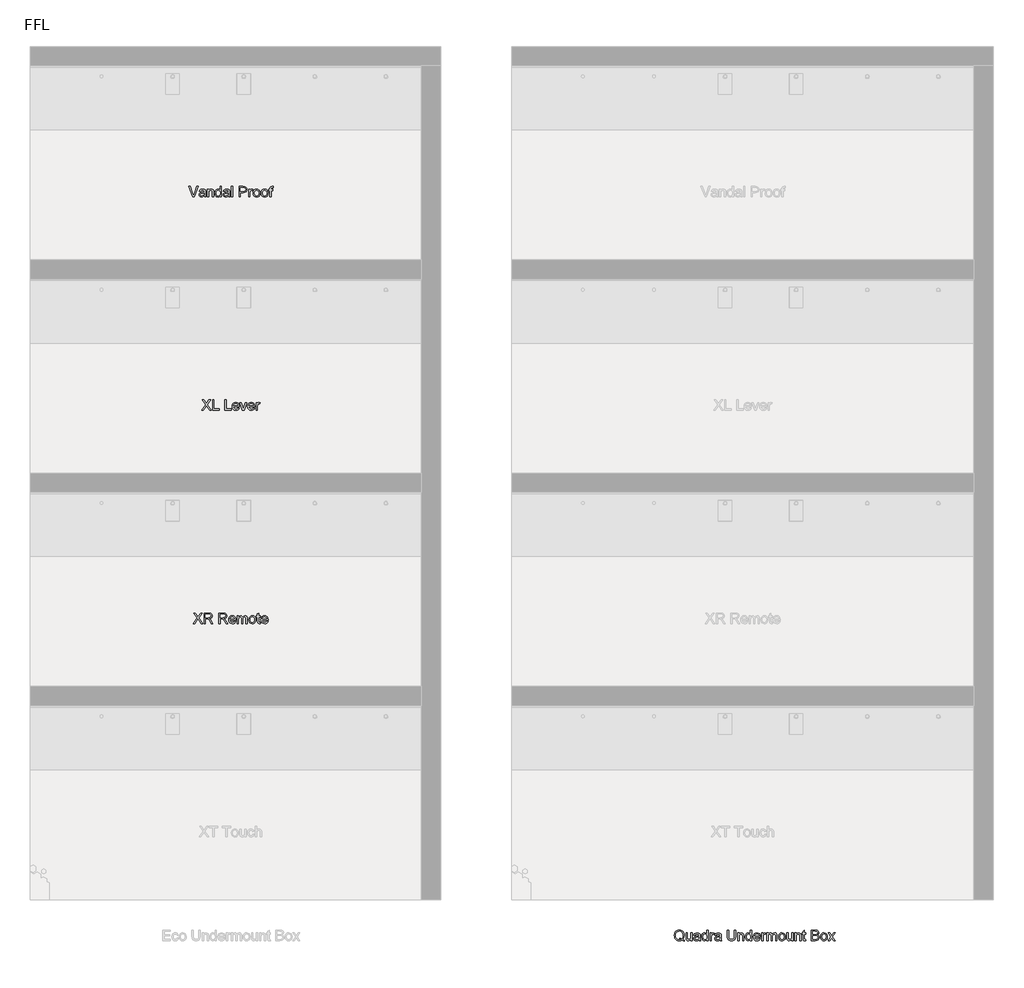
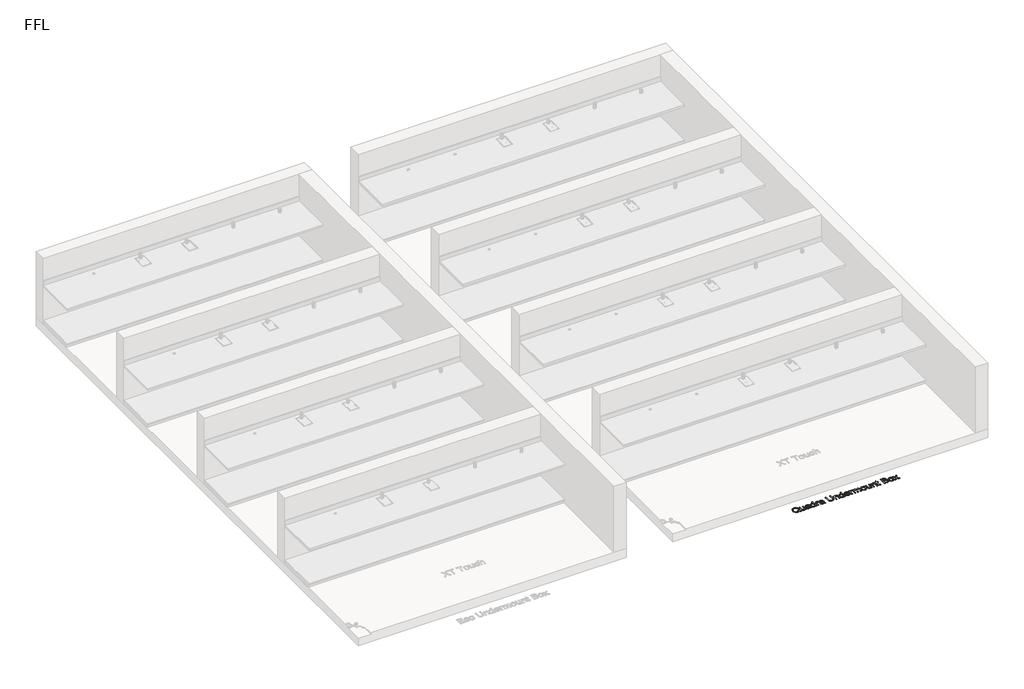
# One storey, part 4 of 5: 4 proxies.
"""IFC4 building model written with IfcOpenShell, lengths in millimetres."""

import ifcopenshell
import ifcopenshell.guid

model = None  # the IFC model being written
_history = None  # IfcOwnerHistory: only IFC2X3 demands one
_inside = {}  # id of a spatial element -> (the spatial element, [elements in it])
_under = {}  # id of a project, library or spatial element -> (it, [spatial elements below it])
_declared = {}  # id of a project -> (the project, [libraries it declares])
_typed = {}  # id of a type object -> (the type object, [elements of that type])
_made_of = {}  # id of a material, layer set ... -> (it, [elements and type objects made of it])


def new_model(schema):
    """Start an empty IFC model of exactly this schema.

    Asked for "IFC4X3", IfcOpenShell would pick the latest addendum, in which some entities
    have other attributes; the version numbers below select the first issue.
    IFC2X3 requires an IfcOwnerHistory on every rooted entity: one is made here for all.
    """
    global model, _history
    if schema == "IFC4X3":
        model = ifcopenshell.file(schema_version=(4, 3, 0, 0))
    else:
        model = ifcopenshell.file(schema=schema)
    _inside.clear()
    _under.clear()
    _declared.clear()
    _typed.clear()
    _made_of.clear()
    _history = None
    if model.schema == "IFC2X3":
        org = make("IfcOrganization", Name="unknown")
        user = make(
            "IfcPersonAndOrganization",
            ThePerson=make("IfcPerson", FamilyName="unknown"),
            TheOrganization=org,
        )
        app = make(
            "IfcApplication",
            ApplicationDeveloper=org,
            Version="unknown",
            ApplicationFullName="unknown",
            ApplicationIdentifier="unknown",
        )
        _history = make(
            "IfcOwnerHistory",
            OwningUser=user,
            OwningApplication=app,
            ChangeAction="ADDED",
            CreationDate=0,
        )
    return model


def make(cls, **values):
    """One entity of the class cls with the attributes given. An attribute that is None is left unset."""
    return model.create_entity(
        cls, **{name: value for name, value in values.items() if value is not None}
    )


def rooted(cls, **values):
    """An entity with a GlobalId (a new one), such as an element, a storey or a relation."""
    return make(cls, GlobalId=ifcopenshell.guid.new(), OwnerHistory=_history, **values)


def si_unit(unit_type, name, prefix=None):
    """IfcSIUnit, for example si_unit("LENGTHUNIT", "METRE", prefix="MILLI")."""
    return make("IfcSIUnit", UnitType=unit_type, Prefix=prefix, Name=name)


def assignment(units):
    """IfcUnitAssignment: the units of a project."""
    return None if units is None else make("IfcUnitAssignment", Units=units)


def point(xyz):
    """IfcCartesianPoint."""
    return None if xyz is None else make("IfcCartesianPoint", Coordinates=xyz)


def direction(xyz):
    """IfcDirection."""
    return None if xyz is None else make("IfcDirection", DirectionRatios=xyz)


def frame(location, z_axis=None, x_axis=None):
    """IfcAxis2Placement3D, a coordinate frame: its origin and axes. An axis left out is left unset."""
    return make(
        "IfcAxis2Placement3D",
        Location=point(location),
        Axis=direction(z_axis),
        RefDirection=direction(x_axis),
    )


def origin():
    """The frame at (0, 0, 0) with its axes left unset."""
    return frame((0.0, 0.0, 0.0))


def origin_with_axes():
    """The frame at (0, 0, 0) with the z axis (0, 0, 1) and the x axis (1, 0, 0) written out."""
    return frame((0.0, 0.0, 0.0), z_axis=(0.0, 0.0, 1.0), x_axis=(1.0, 0.0, 0.0))


def place(relative_to, where):
    """IfcLocalPlacement: puts the frame where relative to a parent placement (None: the world)."""
    return make(
        "IfcLocalPlacement", PlacementRelTo=relative_to, RelativePlacement=where
    )


def context(
    kind, dimensions, precision=None, world=None, true_north=None, identifier=None
):
    """IfcGeometricRepresentationContext, for example the 3D "Model" context."""
    return make(
        "IfcGeometricRepresentationContext",
        ContextIdentifier=identifier,
        ContextType=kind,
        CoordinateSpaceDimension=dimensions,
        Precision=precision,
        WorldCoordinateSystem=world,
        TrueNorth=true_north,
    )


def project(units=None, contexts=None):
    """IfcProject with its units and contexts."""
    return rooted(
        "IfcProject",
        Name="project",
        RepresentationContexts=contexts,
        UnitsInContext=assignment(units),
    )


def spatial(cls, under=None, at=None, **own):
    """A site, building, storey or space (cls), placed at a placement, below another one or the project."""
    s = rooted(cls, ObjectPlacement=at, **own)
    if under is not None:
        _under.setdefault(under.id(), (under, []))[1].append(s)
    return s


def polyline(points):
    """IfcPolyline through the points."""
    return make("IfcPolyline", Points=[point(p) for p in points])


def outline(outer, holes=None, kind="AREA"):
    """IfcArbitraryClosedProfileDef: a profile drawn as a closed curve; with holes, ...WithVoids."""
    if holes is None:
        return make("IfcArbitraryClosedProfileDef", ProfileType=kind, OuterCurve=outer)
    return make(
        "IfcArbitraryProfileDefWithVoids",
        ProfileType=kind,
        OuterCurve=outer,
        InnerCurves=holes,
    )


def extrude(swept, where, along, depth):
    """IfcExtrudedAreaSolid: the profile swept, set in the frame where, extruded along a direction by depth."""
    return make(
        "IfcExtrudedAreaSolid",
        SweptArea=swept,
        Position=where,
        ExtrudedDirection=direction(along),
        Depth=depth,
    )


def shape(context_of_items, identifier, shape_type, items):
    """IfcShapeRepresentation: the items that make up one representation, for example the "Body"."""
    return make(
        "IfcShapeRepresentation",
        ContextOfItems=context_of_items,
        RepresentationIdentifier=identifier,
        RepresentationType=shape_type,
        Items=items,
    )


def made_of(thing, what):
    """Note that an element or type object is made of a material, layer set ...; save() writes the relation."""
    if what is not None:
        _made_of.setdefault(what.id(), (what, []))[1].append(thing)
    return thing


def element(
    cls,
    number,
    at=None,
    inside=None,
    cuts=None,
    type_object=None,
    material=None,
    context=None,
    identifier="Body",
    shape_type=None,
    held_by="IfcProductDefinitionShape",
    body=None,
    shapes=None,
    **own,
):
    """One element of the class cls, such as IfcWall. Its Tag is "e" and its number.

    at: its placement. inside: the storey or other place that contains it. cuts: it is an
    opening in that element (IfcRelVoidsElement). A single representation is given by context,
    identifier, shape_type and body (its items); several are given by shapes. held_by: the class
    of the entity that holds the representations. save() writes the other relations.
    """
    e = rooted(cls, Tag="e%d" % number, ObjectPlacement=at, **own)
    if body is not None:
        shapes = [shape(context, identifier, shape_type, body)]
    if shapes is not None:
        e.Representation = make(held_by, Representations=shapes)
    if inside is not None:
        _inside.setdefault(inside.id(), (inside, []))[1].append(e)
    if cuts is not None:
        rooted(
            "IfcRelVoidsElement", RelatingBuildingElement=cuts, RelatedOpeningElement=e
        )
    if type_object is not None:
        _typed.setdefault(type_object.id(), (type_object, []))[1].append(e)
    return made_of(e, material)


def aggregate(whole, parts):
    """IfcRelAggregates: a whole, such as a stair, and the parts it consists of."""
    return rooted("IfcRelAggregates", RelatingObject=whole, RelatedObjects=parts)


def save(model, path):
    """Write the relations noted so far, then the file.

    IfcRelAggregates (storeys below a building ...), IfcRelContainedInSpatialStructure (elements
    in a storey), IfcRelDefinesByType, IfcRelAssociatesMaterial and IfcRelDeclares: one each for
    every whole, place, type object, material and project.
    """
    for whole, parts in _under.values():
        aggregate(whole, parts)
    for where, things in _inside.values():
        rooted(
            "IfcRelContainedInSpatialStructure",
            RelatedElements=things,
            RelatingStructure=where,
        )
    for kind, things in _typed.values():
        rooted("IfcRelDefinesByType", RelatedObjects=things, RelatingType=kind)
    for what, things in _made_of.values():
        rooted("IfcRelAssociatesMaterial", RelatedObjects=things, RelatingMaterial=what)
    for by, libraries in _declared.values():
        rooted("IfcRelDeclares", RelatingContext=by, RelatedDefinitions=libraries)
    model.write(path)


model = new_model("IFC4")

# Units and contexts
model_context = context("Model", 3, world=origin())
ifc_project = project(units=[si_unit("LENGTHUNIT", "METRE", prefix="MILLI")], contexts=[model_context])

# Site, building, storey
site = spatial("IfcSite", under=ifc_project)
building = spatial("IfcBuilding", under=site)
storey = spatial("IfcBuildingStorey", under=building, Name="FFL", Elevation=0.0)

# Proxies
placement = place(None, origin())
element("IfcBuildingElementProxy", 1, Name="150mm Arial", ObjectType="150mm Arial", at=placement, inside=storey, context=model_context, shape_type="SweptSolid", body=[
    extrude(outline(polyline([(9818.1493225, 6003.2393304), (9875.0844187, 6083.7200996), (9827.3800917, 6150.9316381), (9849.5195148, 6150.9316381), (9876.3824956, 6113.1071188), (9885.4329764, 6098.3595227), (9896.0339379, 6113.3595227), (9922.6084571, 6150.9316381), (9945.0723994, 6150.9316381), (9897.3680725, 6083.5037534), (9954.3031687, 6003.2393304), (9932.1637456, 6003.2393304), (9894.2310533, 6056.7489458), (9886.3344187, 6067.854715), (9877.6445148, 6055.667215), (9840.6132648, 6003.2393304), (9818.1493225, 6003.2393304)])), origin_with_axes(), (0.0, 0.0, 1.0), 5.0),
    extrude(outline(polyline([(9972.7647071, 6003.2393304), (9972.7647071, 6150.9316381), (10036.4065341, 6150.9316381), (10065.9558129, 6146.9472631), (10075.0513658, 6141.4304361), (10082.1096591, 6132.8487054), (10086.6394066, 6122.2071789), (10088.1493225, 6110.510965), (10085.6478201, 6095.9616861), (10078.1433129, 6083.9003881), (10065.4104403, 6075.057239), (10047.2238417, 6070.1624073), (10057.7166302, 6062.2657727), (10072.6805725, 6043.2633688), (10097.3079764, 6003.2393304), (10075.8536494, 6003.2393304), (10056.6348994, 6033.8523111), (10042.7526879, 6054.1167342), (10032.9990821, 6063.6900515), (10024.2190341, 6067.2056765), (10013.5098994, 6067.854715), (9991.2262456, 6067.854715), (9991.2262456, 6003.2393304), (9972.7647071, 6003.2393304)]), holes=[polyline([(9991.2262456, 6086.3162534), (10032.548361, 6086.3162534), (10053.6240821, 6088.9304361), (10065.595236, 6097.2958208), (10069.6877841, 6109.8258688), (10067.7361615, 6118.8312775), (10061.8812937, 6126.0878881), (10051.8076759, 6130.8745467), (10037.1998033, 6132.4700996), (9991.2262456, 6132.4700996), (9991.2262456, 6086.3162534)])]), origin_with_axes(), (0.0, 0.0, 1.0), 5.0),
    extrude(outline(polyline([(10178.1493225, 6003.2393304), (10178.1493225, 6150.9316381), (10241.7911494, 6150.9316381), (10271.3404283, 6146.9472631), (10280.4359812, 6141.4304361), (10287.4942744, 6132.8487054), (10292.024022, 6122.2071789), (10293.5339379, 6110.510965), (10291.0324355, 6095.9616861), (10283.5279283, 6083.9003881), (10270.7950557, 6075.057239), (10252.6084571, 6070.1624073), (10263.1012456, 6062.2657727), (10278.0651879, 6043.2633688), (10302.6925917, 6003.2393304), (10281.2382648, 6003.2393304), (10262.0195148, 6033.8523111), (10248.1373033, 6054.1167342), (10238.3836975, 6063.6900515), (10229.6036494, 6067.2056765), (10218.8945148, 6067.854715), (10196.610861, 6067.854715), (10196.610861, 6003.2393304), (10178.1493225, 6003.2393304)]), holes=[polyline([(10196.610861, 6086.3162534), (10237.9329764, 6086.3162534), (10259.0086975, 6088.9304361), (10270.9798514, 6097.2958208), (10275.0723994, 6109.8258688), (10273.1207768, 6118.8312775), (10267.2659091, 6126.0878881), (10257.1922913, 6130.8745467), (10242.5844187, 6132.4700996), (10196.610861, 6132.4700996), (10196.610861, 6086.3162534)])]), origin_with_axes(), (0.0, 0.0, 1.0), 5.0),
    extrude(outline(polyline([(10399.4714379, 6035.5470227), (10417.5723994, 6033.2393304), (10411.0504643, 6019.6005083), (10400.6433129, 6009.4051958), (10386.5853201, 6003.0500275), (10369.110861, 6000.9316381), (10347.4492023, 6004.5869866), (10330.7815341, 6015.5530323), (10320.1535292, 6033.1176357), (10316.610861, 6056.5686573), (10320.1895869, 6080.8084409), (10330.9257648, 6098.9364458), (10347.3680725, 6110.2405323), (10368.0651879, 6114.0085611), (10388.117772, 6110.2495467), (10404.1409091, 6098.9725034), (10414.6472191, 6080.8805563), (10418.1493225, 6056.6768304), (10418.0411494, 6051.7008688), (10335.0723994, 6051.7008688), (10338.2680124, 6037.8817583), (10345.6913898, 6027.7225034), (10356.4050316, 6021.4755083), (10369.4714379, 6019.3931765), (10387.5723994, 6023.2513496), (10399.4714379, 6035.5470227)]), holes=[polyline([(10335.0723994, 6070.1624073), (10399.6877841, 6070.1624073), (10397.1907889, 6079.9160131), (10392.2959571, 6086.8931765), (10381.532736, 6093.3835611), (10367.9930725, 6095.5470227), (10355.5486615, 6093.8207607), (10345.2586975, 6088.6419746), (10338.1057528, 6080.5695587), (10335.0723994, 6070.1624073)])]), origin_with_axes(), (0.0, 0.0, 1.0), 5.0),
    extrude(outline(polyline([(10436.610861, 6003.2393304), (10436.610861, 6111.7008688), (10455.0723994, 6111.7008688), (10455.0723994, 6093.8523111), (10467.7647071, 6108.4737054), (10485.829611, 6114.0085611), (10496.0970389, 6112.5978039), (10504.3272071, 6108.3655323), (10514.4954764, 6092.5542342), (10528.9005244, 6108.6449794), (10547.0916302, 6114.0085611), (10560.9693345, 6111.7774914), (10571.2322552, 6105.0842823), (10577.5739018, 6093.7486453), (10579.6877841, 6077.5902919), (10579.6877841, 6003.2393304), (10561.2262456, 6003.2393304), (10561.2262456, 6069.6575996), (10559.5135052, 6085.0722631), (10553.3115821, 6092.6624073), (10542.7647071, 6095.5470227), (10532.7632047, 6093.6990659), (10524.6096591, 6088.1551958), (10519.1874836, 6078.5368063), (10517.3800917, 6064.4652919), (10517.3800917, 6003.2393304), (10498.9185533, 6003.2393304), (10498.9185533, 6071.7128881), (10494.6457167, 6089.5975034), (10489.0071951, 6094.0596429), (10480.6373033, 6095.5470227), (10466.9714379, 6091.5806765), (10457.8848994, 6079.9700996), (10455.0723994, 6057.9388496), (10455.0723994, 6003.2393304), (10436.610861, 6003.2393304)])), origin_with_axes(), (0.0, 0.0, 1.0), 5.0),
    extrude(outline(polyline([(10602.7647071, 6057.4700996), (10606.7580966, 6083.6209409), (10618.7382648, 6102.0013496), (10633.5399475, 6111.0067583), (10651.2623033, 6114.0085611), (10670.6568345, 6110.3532126), (10686.1481206, 6099.3871669), (10696.3028682, 6081.9758087), (10699.6877841, 6058.9845227), (10698.1913898, 6040.3336813), (10693.7022071, 6026.135965), (10686.3509451, 6015.503453), (10676.2683129, 6007.5482246), (10664.2926518, 6002.5857847), (10651.2623033, 6000.9316381), (10631.633397, 6004.573465), (10616.1601398, 6015.4989458), (10606.1135653, 6033.2753881), (10602.7647071, 6057.4700996)]), holes=[polyline([(10621.2262456, 6057.5061573), (10623.3626639, 6040.7979241), (10629.7719187, 6028.8943784), (10639.4173514, 6021.768477), (10651.2623033, 6019.3931765), (10663.0531687, 6021.7819986), (10672.6805725, 6028.948465), (10679.0898273, 6041.0097631), (10681.2262456, 6058.0830804), (10679.0763057, 6074.3045347), (10672.626486, 6086.0458208), (10662.9855605, 6093.1717222), (10651.2623033, 6095.5470227), (10639.4173514, 6093.1807366), (10629.7719187, 6086.0818784), (10623.3626639, 6074.205376), (10621.2262456, 6057.5061573)])]), origin_with_axes(), (0.0, 0.0, 1.0), 5.0),
    extrude(outline(polyline([(10759.6877841, 6018.635965), (10761.9954764, 6002.698465), (10748.1853802, 6000.9316381), (10732.7166302, 6003.9965419), (10725.0002841, 6012.0374073), (10722.7647071, 6032.9869265), (10722.7647071, 6093.2393304), (10708.9185533, 6093.2393304), (10708.9185533, 6111.7008688), (10722.7647071, 6111.7008688), (10722.7647071, 6138.0590419), (10741.2262456, 6148.9124073), (10741.2262456, 6111.7008688), (10759.6877841, 6111.7008688), (10759.6877841, 6093.2393304), (10741.2262456, 6093.2393304), (10741.2262456, 6033.5277919), (10742.1998033, 6024.0085611), (10745.3548514, 6020.6371669), (10751.6469187, 6019.3931765), (10759.6877841, 6018.635965)])), origin_with_axes(), (0.0, 0.0, 1.0), 5.0),
    extrude(outline(polyline([(10854.0868225, 6035.5470227), (10872.1877841, 6033.2393304), (10865.665849, 6019.6005083), (10855.2586975, 6009.4051958), (10841.2007047, 6003.0500275), (10823.7262456, 6000.9316381), (10802.0645869, 6004.5869866), (10785.3969187, 6015.5530323), (10774.7689139, 6033.1176357), (10771.2262456, 6056.5686573), (10774.8049716, 6080.8084409), (10785.5411494, 6098.9364458), (10801.9834571, 6110.2405323), (10822.6805725, 6114.0085611), (10842.7331566, 6110.2495467), (10858.7562937, 6098.9725034), (10869.2626038, 6080.8805563), (10872.7647071, 6056.6768304), (10872.6565341, 6051.7008688), (10789.6877841, 6051.7008688), (10792.883397, 6037.8817583), (10800.3067744, 6027.7225034), (10811.0204163, 6021.4755083), (10824.0868225, 6019.3931765), (10842.1877841, 6023.2513496), (10854.0868225, 6035.5470227)]), holes=[polyline([(10789.6877841, 6070.1624073), (10854.3031687, 6070.1624073), (10851.8061735, 6079.9160131), (10846.9113417, 6086.8931765), (10836.1481206, 6093.3835611), (10822.6084571, 6095.5470227), (10810.1640461, 6093.8207607), (10799.8740821, 6088.6419746), (10792.7211374, 6080.5695587), (10789.6877841, 6070.1624073)])]), origin_with_axes(), (0.0, 0.0, 1.0), 5.0),
])
element("IfcBuildingElementProxy", 2, Name="150mm Arial", ObjectType="150mm Arial", at=placement, inside=storey, context=model_context, shape_type="SweptSolid", body=[
    extrude(outline(polyline([(9936.9954764, 9003.2393304), (9993.9305725, 9083.7200996), (9946.2262456, 9150.9316381), (9968.3656687, 9150.9316381), (9995.2286494, 9113.1071188), (10004.2791302, 9098.3595227), (10014.8800917, 9113.3595227), (10041.454611, 9150.9316381), (10063.9185533, 9150.9316381), (10016.2142264, 9083.5037534), (10073.1493225, 9003.2393304), (10051.0098994, 9003.2393304), (10013.0772071, 9056.7489458), (10005.1805725, 9067.854715), (9996.4906687, 9055.667215), (9959.4594187, 9003.2393304), (9936.9954764, 9003.2393304)])), origin_with_axes(), (0.0, 0.0, 1.0), 5.0),
    extrude(outline(polyline([(10091.610861, 9003.2393304), (10091.610861, 9150.9316381), (10110.0723994, 9150.9316381), (10110.0723994, 9021.7008688), (10183.9185533, 9021.7008688), (10183.9185533, 9003.2393304), (10091.610861, 9003.2393304)])), origin_with_axes(), (0.0, 0.0, 1.0), 5.0),
    extrude(outline(polyline([(10262.3800917, 9003.2393304), (10262.3800917, 9150.9316381), (10280.8416302, 9150.9316381), (10280.8416302, 9021.7008688), (10354.6877841, 9021.7008688), (10354.6877841, 9003.2393304), (10262.3800917, 9003.2393304)])), origin_with_axes(), (0.0, 0.0, 1.0), 5.0),
    extrude(outline(polyline([(10449.0868225, 9035.5470227), (10467.1877841, 9033.2393304), (10460.665849, 9019.6005083), (10450.2586975, 9009.4051958), (10436.2007047, 9003.0500275), (10418.7262456, 9000.9316381), (10397.0645869, 9004.5869866), (10380.3969187, 9015.5530323), (10369.7689139, 9033.1176357), (10366.2262456, 9056.5686573), (10369.8049716, 9080.8084409), (10380.5411494, 9098.9364458), (10396.9834571, 9110.2405323), (10417.6805725, 9114.0085611), (10437.7331566, 9110.2495467), (10453.7562937, 9098.9725034), (10464.2626038, 9080.8805563), (10467.7647071, 9056.6768304), (10467.6565341, 9051.7008688), (10384.6877841, 9051.7008688), (10387.883397, 9037.8817583), (10395.3067744, 9027.7225034), (10406.0204163, 9021.4755083), (10419.0868225, 9019.3931765), (10437.1877841, 9023.2513496), (10449.0868225, 9035.5470227)]), holes=[polyline([(10384.6877841, 9070.1624073), (10449.3031687, 9070.1624073), (10446.8061735, 9079.9160131), (10441.9113417, 9086.8931765), (10431.1481206, 9093.3835611), (10417.6084571, 9095.5470227), (10405.1640461, 9093.8207607), (10394.8740821, 9088.6419746), (10387.7211374, 9080.5695587), (10384.6877841, 9070.1624073)])]), origin_with_axes(), (0.0, 0.0, 1.0), 5.0),
    extrude(outline(polyline([(10512.8368225, 9003.2393304), (10474.6877841, 9111.7008688), (10494.2310533, 9111.7008688), (10517.3440341, 9046.7249073), (10524.3031687, 9024.8739458), (10531.1180725, 9045.4989458), (10554.3752841, 9111.7008688), (10573.9185533, 9111.7008688), (10536.2382648, 9003.2393304), (10512.8368225, 9003.2393304)])), origin_with_axes(), (0.0, 0.0, 1.0), 5.0),
    extrude(outline(polyline([(10666.0098994, 9035.5470227), (10684.110861, 9033.2393304), (10677.5889259, 9019.6005083), (10667.1817744, 9009.4051958), (10653.1237816, 9003.0500275), (10635.6493225, 9000.9316381), (10613.9876639, 9004.5869866), (10597.3199956, 9015.5530323), (10586.6919908, 9033.1176357), (10583.1493225, 9056.5686573), (10586.7280485, 9080.8084409), (10597.4642264, 9098.9364458), (10613.9065341, 9110.2405323), (10634.6036494, 9114.0085611), (10654.6562336, 9110.2495467), (10670.6793706, 9098.9725034), (10681.1856807, 9080.8805563), (10684.6877841, 9056.6768304), (10684.579611, 9051.7008688), (10601.610861, 9051.7008688), (10604.806474, 9037.8817583), (10612.2298514, 9027.7225034), (10622.9434932, 9021.4755083), (10636.0098994, 9019.3931765), (10654.110861, 9023.2513496), (10666.0098994, 9035.5470227)]), holes=[polyline([(10601.610861, 9070.1624073), (10666.2262456, 9070.1624073), (10663.7292504, 9079.9160131), (10658.8344187, 9086.8931765), (10648.0711975, 9093.3835611), (10634.5315341, 9095.5470227), (10622.087123, 9093.8207607), (10611.7971591, 9088.6419746), (10604.6442143, 9080.5695587), (10601.610861, 9070.1624073)])]), origin_with_axes(), (0.0, 0.0, 1.0), 5.0),
    extrude(outline(polyline([(10703.1493225, 9003.2393304), (10703.1493225, 9111.7008688), (10719.3031687, 9111.7008688), (10719.3031687, 9095.6551958), (10730.7695148, 9110.4388496), (10742.3079764, 9114.0085611), (10760.8416302, 9108.3114458), (10754.6757648, 9091.760965), (10741.6949956, 9095.5470227), (10731.2562937, 9091.9051958), (10724.6036494, 9081.8090419), (10721.610861, 9060.2465419), (10721.610861, 9003.2393304), (10703.1493225, 9003.2393304)])), origin_with_axes(), (0.0, 0.0, 1.0), 5.0),
])
element("IfcBuildingElementProxy", 3, Name="150mm Arial", ObjectType="150mm Arial", at=placement, inside=storey, context=model_context, shape_type="SweptSolid", body=[
    extrude(outline(polyline([(9815.6252841, 12003.2393304), (9756.8512456, 12150.9316381), (9776.610861, 12150.9316381), (9815.9498033, 12044.5253881), (9823.9185533, 12020.5470227), (9831.7791302, 12044.5253881), (9871.2262456, 12150.9316381), (9890.985861, 12150.9316381), (9834.6998033, 12003.2393304), (9815.6252841, 12003.2393304)])), origin_with_axes(), (0.0, 0.0, 1.0), 5.0),
    extrude(outline(polyline([(9975.0723994, 12017.0854842), (9957.1697552, 12004.573465), (9937.392111, 12000.9316381), (9921.9639259, 12003.1221429), (9910.5832167, 12009.6936573), (9903.5654884, 12019.6726236), (9901.2262456, 12032.0854842), (9904.7598994, 12046.6888496), (9914.0447552, 12057.2898111), (9926.9714379, 12063.3475034), (9942.9449956, 12066.1239458), (9974.9642264, 12072.4700996), (9975.0723994, 12076.5806765), (9973.8013658, 12084.8198592), (9969.9882648, 12090.2104842), (9961.4606206, 12094.2128881), (9949.579611, 12095.5470227), (9930.9017264, 12091.99534), (9921.9954764, 12079.3931765), (9903.5339379, 12081.7008688), (9911.5207167, 12099.729715), (9927.6024475, 12110.2946188), (9951.9594187, 12114.0085611), (9974.3332167, 12110.7273111), (9986.9714379, 12102.4881284), (9992.6324956, 12089.9580804), (9993.5339379, 12073.8042342), (9993.5339379, 12050.8354842), (9994.4714379, 12018.7621669), (9998.1493225, 12003.2393304), (9979.6877841, 12003.2393304), (9975.0723994, 12017.0854842)]), holes=[polyline([(9975.0723994, 12054.0085611), (9945.2887456, 12048.3475034), (9929.4053321, 12045.354715), (9922.2118225, 12040.4869265), (9919.6877841, 12033.3835611), (9925.1865821, 12023.3955804), (9941.3223994, 12019.3931765), (9960.0002841, 12023.8102438), (9972.0435533, 12034.5013496), (9974.9642264, 12048.7801958), (9975.0723994, 12054.0085611)])]), origin_with_axes(), (0.0, 0.0, 1.0), 5.0),
    extrude(outline(polyline([(10018.9185533, 12003.2393304), (10018.9185533, 12111.7008688), (10037.3800917, 12111.7008688), (10037.3800917, 12096.5566381), (10051.4966783, 12109.6455804), (10070.7695148, 12114.0085611), (10088.2034091, 12110.4929361), (10100.1024475, 12101.2621669), (10105.6373033, 12087.6864458), (10106.610861, 12069.8378881), (10106.610861, 12003.2393304), (10088.1493225, 12003.2393304), (10088.1493225, 12067.3499073), (10086.0219187, 12083.6840419), (10078.5038898, 12092.3198592), (10065.829611, 12095.5470227), (10055.0168105, 12093.7351236), (10045.7995629, 12088.2994265), (10039.4849595, 12077.7976236), (10037.3800917, 12060.7874073), (10037.3800917, 12003.2393304), (10018.9185533, 12003.2393304)])), origin_with_axes(), (0.0, 0.0, 1.0), 5.0),
    extrude(outline(polyline([(10198.9185533, 12003.2393304), (10198.9185533, 12020.6551958), (10186.70401, 12005.8625275), (10169.8199956, 12000.9316381), (10157.8848994, 12002.7164938), (10146.9594187, 12008.0710611), (10137.7106206, 12016.6212414), (10130.8055725, 12027.9929361), (10126.5056927, 12041.7264097), (10125.0723994, 12057.3619265), (10130.3548514, 12086.7489458), (10136.9534091, 12098.4045948), (10146.1841783, 12106.9773111), (10157.3485413, 12112.2507486), (10169.7478802, 12114.0085611), (10186.767111, 12108.9785131), (10198.9185533, 12095.9075996), (10198.9185533, 12150.9316381), (10217.3800917, 12150.9316381), (10217.3800917, 12003.2393304), (10198.9185533, 12003.2393304)]), holes=[polyline([(10143.5339379, 12057.4340419), (10145.6162696, 12040.7348232), (10151.8632648, 12028.8583208), (10160.9407889, 12021.7594626), (10171.5147071, 12019.3931765), (10182.0841182, 12021.6512895), (10190.9317744, 12028.4256284), (10196.9218586, 12039.8423953), (10198.9185533, 12056.0277919), (10196.8858009, 12073.7231044), (10190.7875437, 12085.9917342), (10181.7145268, 12093.1582006), (10170.7574956, 12095.5470227), (10160.0754042, 12093.252852), (10151.3223994, 12086.37034), (10145.4810533, 12074.5479241), (10143.5339379, 12057.4340419)])]), origin_with_axes(), (0.0, 0.0, 1.0), 5.0),
    extrude(outline(polyline([(10314.3031687, 12017.0854842), (10296.4005244, 12004.573465), (10276.6228802, 12000.9316381), (10261.1946951, 12003.1221429), (10249.813986, 12009.6936573), (10242.7962576, 12019.6726236), (10240.4570148, 12032.0854842), (10243.9906687, 12046.6888496), (10253.2755244, 12057.2898111), (10266.2022071, 12063.3475034), (10282.1757648, 12066.1239458), (10314.1949956, 12072.4700996), (10314.3031687, 12076.5806765), (10313.032135, 12084.8198592), (10309.2190341, 12090.2104842), (10300.6913898, 12094.2128881), (10288.8103802, 12095.5470227), (10270.1324956, 12091.99534), (10261.2262456, 12079.3931765), (10242.7647071, 12081.7008688), (10250.751486, 12099.729715), (10266.8332167, 12110.2946188), (10291.1901879, 12114.0085611), (10313.563986, 12110.7273111), (10326.2022071, 12102.4881284), (10331.8632648, 12089.9580804), (10332.7647071, 12073.8042342), (10332.7647071, 12050.8354842), (10333.7022071, 12018.7621669), (10337.3800917, 12003.2393304), (10318.9185533, 12003.2393304), (10314.3031687, 12017.0854842)]), holes=[polyline([(10314.3031687, 12054.0085611), (10284.5195148, 12048.3475034), (10268.6361014, 12045.354715), (10261.4425917, 12040.4869265), (10258.9185533, 12033.3835611), (10264.4173514, 12023.3955804), (10280.5531687, 12019.3931765), (10299.2310533, 12023.8102438), (10311.2743225, 12034.5013496), (10314.1949956, 12048.7801958), (10314.3031687, 12054.0085611)])]), origin_with_axes(), (0.0, 0.0, 1.0), 5.0),
    extrude(outline(polyline([(10358.1493225, 12003.2393304), (10358.1493225, 12150.9316381), (10376.610861, 12150.9316381), (10376.610861, 12003.2393304), (10358.1493225, 12003.2393304)])), origin_with_axes(), (0.0, 0.0, 1.0), 5.0),
    extrude(outline(polyline([(10464.3031687, 12003.2393304), (10464.3031687, 12150.9316381), (10519.0387456, 12150.9316381), (10541.1060533, 12149.5253881), (10559.0447552, 12142.62034), (10570.673361, 12128.3414938), (10575.0723994, 12108.2032727), (10572.102147, 12090.7964217), (10563.1913898, 12076.292215), (10546.5282288, 12066.5025515), (10520.3007648, 12063.2393304), (10482.7647071, 12063.2393304), (10482.7647071, 12003.2393304), (10464.3031687, 12003.2393304)]), holes=[polyline([(10482.7647071, 12081.7008688), (10521.3824956, 12081.7008688), (10537.7526879, 12083.3955804), (10548.5699956, 12088.479715), (10554.6006446, 12096.6377679), (10556.610861, 12107.5542342), (10551.8692744, 12122.8426958), (10539.4113417, 12131.2080804), (10520.9498033, 12132.4700996), (10482.7647071, 12132.4700996), (10482.7647071, 12081.7008688)])]), origin_with_axes(), (0.0, 0.0, 1.0), 5.0),
    extrude(outline(polyline([(10598.1493225, 12003.2393304), (10598.1493225, 12111.7008688), (10614.3031687, 12111.7008688), (10614.3031687, 12095.6551958), (10625.7695148, 12110.4388496), (10637.3079764, 12114.0085611), (10655.8416302, 12108.3114458), (10649.6757648, 12091.760965), (10636.6949956, 12095.5470227), (10626.2562937, 12091.9051958), (10619.6036494, 12081.8090419), (10616.610861, 12060.2465419), (10616.610861, 12003.2393304), (10598.1493225, 12003.2393304)])), origin_with_axes(), (0.0, 0.0, 1.0), 5.0),
    extrude(outline(polyline([(10662.7647071, 12057.4700996), (10666.7580966, 12083.6209409), (10678.7382648, 12102.0013496), (10693.5399475, 12111.0067583), (10711.2623033, 12114.0085611), (10730.6568345, 12110.3532126), (10746.1481206, 12099.3871669), (10756.3028682, 12081.9758087), (10759.6877841, 12058.9845227), (10758.1913898, 12040.3336813), (10753.7022071, 12026.135965), (10746.3509451, 12015.503453), (10736.2683129, 12007.5482246), (10724.2926518, 12002.5857847), (10711.2623033, 12000.9316381), (10691.633397, 12004.573465), (10676.1601398, 12015.4989458), (10666.1135653, 12033.2753881), (10662.7647071, 12057.4700996)]), holes=[polyline([(10681.2262456, 12057.5061573), (10683.3626639, 12040.7979241), (10689.7719187, 12028.8943784), (10699.4173514, 12021.768477), (10711.2623033, 12019.3931765), (10723.0531687, 12021.7819986), (10732.6805725, 12028.948465), (10739.0898273, 12041.0097631), (10741.2262456, 12058.0830804), (10739.0763057, 12074.3045347), (10732.626486, 12086.0458208), (10722.9855605, 12093.1717222), (10711.2623033, 12095.5470227), (10699.4173514, 12093.1807366), (10689.7719187, 12086.0818784), (10683.3626639, 12074.205376), (10681.2262456, 12057.5061573)])]), origin_with_axes(), (0.0, 0.0, 1.0), 5.0),
    extrude(outline(polyline([(10775.8416302, 12057.4700996), (10779.8350196, 12083.6209409), (10791.8151879, 12102.0013496), (10806.6168706, 12111.0067583), (10824.3392264, 12114.0085611), (10843.7337576, 12110.3532126), (10859.2250437, 12099.3871669), (10869.3797913, 12081.9758087), (10872.7647071, 12058.9845227), (10871.2683129, 12040.3336813), (10866.7791302, 12026.135965), (10859.4278682, 12015.503453), (10849.345236, 12007.5482246), (10837.3695749, 12002.5857847), (10824.3392264, 12000.9316381), (10804.7103201, 12004.573465), (10789.2370629, 12015.4989458), (10779.1904884, 12033.2753881), (10775.8416302, 12057.4700996)]), holes=[polyline([(10794.3031687, 12057.5061573), (10796.4395869, 12040.7979241), (10802.8488417, 12028.8943784), (10812.4942744, 12021.768477), (10824.3392264, 12019.3931765), (10836.1300917, 12021.7819986), (10845.7574956, 12028.948465), (10852.1667504, 12041.0097631), (10854.3031687, 12058.0830804), (10852.1532288, 12074.3045347), (10845.7034091, 12086.0458208), (10836.0624836, 12093.1717222), (10824.3392264, 12095.5470227), (10812.4942744, 12093.1807366), (10802.8488417, 12086.0818784), (10796.4395869, 12074.205376), (10794.3031687, 12057.5061573)])]), origin_with_axes(), (0.0, 0.0, 1.0), 5.0),
    extrude(outline(polyline([(10898.1493225, 12003.2393304), (10898.1493225, 12093.2393304), (10881.9954764, 12093.2393304), (10881.9954764, 12111.7008688), (10898.1493225, 12111.7008688), (10898.1493225, 12122.6263496), (10900.0964379, 12138.0229842), (10909.5435533, 12149.0205804), (10928.1493225, 12153.2393304), (10944.9882648, 12151.2200996), (10942.2839379, 12133.9124073), (10931.6469187, 12134.7777919), (10920.0183129, 12131.7128881), (10916.610861, 12120.2825996), (10916.610861, 12111.7008688), (10937.3800917, 12111.7008688), (10937.3800917, 12093.2393304), (10916.610861, 12093.2393304), (10916.610861, 12003.2393304), (10898.1493225, 12003.2393304)])), origin_with_axes(), (0.0, 0.0, 1.0), 5.0),
])
element("IfcBuildingElementProxy", 4, Name="150mm Arial", ObjectType="150mm Arial", at=placement, inside=storey, context=model_context, shape_type="SweptSolid", body=[
    extrude(outline(polyline([(16704.6757648, 1560.9436573), (16727.5723994, 1545.5470227), (16722.5964379, 1532.0253881), (16692.1998033, 1549.2970227), (16675.1174716, 1543.0229842), (16656.3223994, 1540.9316381), (16637.4371831, 1543.3429962), (16620.3728802, 1550.5770708), (16606.0805124, 1562.1786333), (16595.5111014, 1577.6924554), (16588.9801518, 1596.2666741), (16586.8031687, 1617.0494265), (16588.9756446, 1637.8502078), (16595.4930725, 1656.6948592), (16606.0219187, 1672.4295347), (16620.2286494, 1683.9003881), (16637.2298514, 1690.9045948), (16656.142111, 1693.2393304), (16675.2031086, 1690.8505083), (16692.2899475, 1683.6840419), (16706.4741422, 1672.2176958), (16716.8272071, 1656.9292342), (16723.1553321, 1638.6299554), (16725.2647071, 1618.1311573), (16720.1445148, 1585.8595227), (16713.7172312, 1572.4731044), (16704.6757648, 1560.9436573)]), holes=[polyline([(16661.4065341, 1585.4989458), (16676.9293706, 1579.6305563), (16689.4594187, 1571.4725034), (16702.4672312, 1590.510965), (16706.8031687, 1617.1936573), (16705.2707167, 1633.4421549), (16700.673361, 1647.5001477), (16693.1237816, 1659.0115659), (16682.7346591, 1667.62034), (16670.2091182, 1672.9884289), (16656.2502841, 1674.7777919), (16636.1300917, 1671.158501), (16619.7598994, 1660.3006284), (16608.8885052, 1642.2582607), (16605.2647071, 1617.0854842), (16608.8479403, 1592.4535732), (16619.5976398, 1574.3030323), (16635.9182528, 1563.1206405), (16656.2142264, 1559.3931765), (16676.0820148, 1563.1792342), (16656.6469187, 1571.3643304), (16661.4065341, 1585.4989458)])]), origin_with_axes(), (0.0, 0.0, 1.0), 5.0),
    extrude(outline(polyline([(16819.8800917, 1543.2393304), (16819.8800917, 1561.8811573), (16805.4209571, 1546.1690179), (16786.5627841, 1540.9316381), (16769.2010052, 1544.6095227), (16757.2298514, 1553.8402919), (16751.7310533, 1567.4340419), (16750.6493225, 1584.5975034), (16750.6493225, 1651.7008688), (16769.110861, 1651.7008688), (16769.110861, 1593.2874073), (16770.2286494, 1574.4652919), (16777.5303321, 1563.4136092), (16791.2863417, 1559.3931765), (16806.7010052, 1563.5037534), (16816.8873033, 1574.6996669), (16819.8800917, 1595.2705804), (16819.8800917, 1651.7008688), (16838.3416302, 1651.7008688), (16838.3416302, 1543.2393304), (16819.8800917, 1543.2393304)])), origin_with_axes(), (0.0, 0.0, 1.0), 5.0),
    extrude(outline(polyline([(16932.9570148, 1557.0854842), (16915.0543706, 1544.573465), (16895.2767264, 1540.9316381), (16879.8485413, 1543.1221429), (16868.4678321, 1549.6936573), (16861.4501038, 1559.6726236), (16859.110861, 1572.0854842), (16862.6445148, 1586.6888496), (16871.9293706, 1597.2898111), (16884.8560533, 1603.3475034), (16900.829611, 1606.1239458), (16932.8488417, 1612.4700996), (16932.9570148, 1616.5806765), (16931.6859812, 1624.8198592), (16927.8728802, 1630.2104842), (16919.345236, 1634.2128881), (16907.4642264, 1635.5470227), (16888.7863417, 1631.99534), (16879.8800917, 1619.3931765), (16861.4185533, 1621.7008688), (16869.4053321, 1639.729715), (16885.4870629, 1650.2946188), (16909.8440341, 1654.0085611), (16932.2178321, 1650.7273111), (16944.8560533, 1642.4881284), (16950.517111, 1629.9580804), (16951.4185533, 1613.8042342), (16951.4185533, 1590.8354842), (16952.3560533, 1558.7621669), (16956.0339379, 1543.2393304), (16937.5723994, 1543.2393304), (16932.9570148, 1557.0854842)]), holes=[polyline([(16932.9570148, 1594.0085611), (16903.173361, 1588.3475034), (16887.2899475, 1585.354715), (16880.0964379, 1580.4869265), (16877.5723994, 1573.3835611), (16883.0711975, 1563.3955804), (16899.2070148, 1559.3931765), (16917.8848994, 1563.8102438), (16929.9281687, 1574.5013496), (16932.8488417, 1588.7801958), (16932.9570148, 1594.0085611)])]), origin_with_axes(), (0.0, 0.0, 1.0), 5.0),
    extrude(outline(polyline([(17043.7262456, 1543.2393304), (17043.7262456, 1560.6551958), (17031.5117023, 1545.8625275), (17014.6276879, 1540.9316381), (17002.6925917, 1542.7164938), (16991.767111, 1548.0710611), (16982.5183129, 1556.6212414), (16975.6132648, 1567.9929361), (16971.313385, 1581.7264097), (16969.8800917, 1597.3619265), (16975.1625437, 1626.7489458), (16981.7611014, 1638.4045948), (16990.9918706, 1646.9773111), (17002.1562336, 1652.2507486), (17014.5555725, 1654.0085611), (17031.5748033, 1648.9785131), (17043.7262456, 1635.9075996), (17043.7262456, 1690.9316381), (17062.1877841, 1690.9316381), (17062.1877841, 1543.2393304), (17043.7262456, 1543.2393304)]), holes=[polyline([(16988.3416302, 1597.4340419), (16990.4239619, 1580.7348232), (16996.6709571, 1568.8583208), (17005.7484812, 1561.7594626), (17016.3223994, 1559.3931765), (17026.8918105, 1561.6512895), (17035.7394667, 1568.4256284), (17041.7295509, 1579.8423953), (17043.7262456, 1596.0277919), (17041.6934932, 1613.7231044), (17035.595236, 1625.9917342), (17026.5222191, 1633.1582006), (17015.5651879, 1635.5470227), (17004.8830966, 1633.252852), (16996.1300917, 1626.37034), (16990.2887456, 1614.5479241), (16988.3416302, 1597.4340419)])]), origin_with_axes(), (0.0, 0.0, 1.0), 5.0),
    extrude(outline(polyline([(17089.8800917, 1543.2393304), (17089.8800917, 1651.7008688), (17106.0339379, 1651.7008688), (17106.0339379, 1635.6551958), (17117.5002841, 1650.4388496), (17129.0387456, 1654.0085611), (17147.5723994, 1648.3114458), (17141.4065341, 1631.760965), (17128.4257648, 1635.5470227), (17117.9870629, 1631.9051958), (17111.3344187, 1621.8090419), (17108.3416302, 1600.2465419), (17108.3416302, 1543.2393304), (17089.8800917, 1543.2393304)])), origin_with_axes(), (0.0, 0.0, 1.0), 5.0),
    extrude(outline(polyline([(17228.3416302, 1557.0854842), (17210.438986, 1544.573465), (17190.6613417, 1540.9316381), (17175.2331566, 1543.1221429), (17163.8524475, 1549.6936573), (17156.8347191, 1559.6726236), (17154.4954764, 1572.0854842), (17158.0291302, 1586.6888496), (17167.313986, 1597.2898111), (17180.2406687, 1603.3475034), (17196.2142264, 1606.1239458), (17228.2334571, 1612.4700996), (17228.3416302, 1616.5806765), (17227.0705966, 1624.8198592), (17223.2574956, 1630.2104842), (17214.7298514, 1634.2128881), (17202.8488417, 1635.5470227), (17184.1709571, 1631.99534), (17175.2647071, 1619.3931765), (17156.8031687, 1621.7008688), (17164.7899475, 1639.729715), (17180.8716783, 1650.2946188), (17205.2286494, 1654.0085611), (17227.6024475, 1650.7273111), (17240.2406687, 1642.4881284), (17245.9017264, 1629.9580804), (17246.8031687, 1613.8042342), (17246.8031687, 1590.8354842), (17247.7406687, 1558.7621669), (17251.4185533, 1543.2393304), (17232.9570148, 1543.2393304), (17228.3416302, 1557.0854842)]), holes=[polyline([(17228.3416302, 1594.0085611), (17198.5579764, 1588.3475034), (17182.6745629, 1585.354715), (17175.4810533, 1580.4869265), (17172.9570148, 1573.3835611), (17178.4558129, 1563.3955804), (17194.5916302, 1559.3931765), (17213.2695148, 1563.8102438), (17225.3127841, 1574.5013496), (17228.2334571, 1588.7801958), (17228.3416302, 1594.0085611)])]), origin_with_axes(), (0.0, 0.0, 1.0), 5.0),
    extrude(outline(polyline([(17429.110861, 1690.9316381), (17447.5723994, 1690.9316381), (17447.5723994, 1605.7273111), (17442.5603802, 1570.4088015), (17435.5381446, 1558.5548352), (17424.4954764, 1549.1347631), (17409.4053321, 1542.9824193), (17390.2406687, 1540.9316381), (17371.4951759, 1542.7164938), (17356.5086975, 1548.0710611), (17345.2767264, 1556.8105443), (17337.7947552, 1568.7501477), (17333.5895268, 1584.7642703), (17332.1877841, 1605.7273111), (17332.1877841, 1690.9316381), (17350.6493225, 1690.9316381), (17350.6493225, 1606.3763496), (17354.2911494, 1578.2333208), (17359.2400677, 1570.2330203), (17366.8031687, 1564.2970227), (17388.5098994, 1559.3931765), (17407.2869427, 1561.8180563), (17419.7719187, 1569.0926958), (17426.7761254, 1583.2633688), (17429.110861, 1606.3763496), (17429.110861, 1690.9316381)])), origin_with_axes(), (0.0, 0.0, 1.0), 5.0),
    extrude(outline(polyline([(17477.5723994, 1543.2393304), (17477.5723994, 1651.7008688), (17496.0339379, 1651.7008688), (17496.0339379, 1636.5566381), (17510.1505244, 1649.6455804), (17529.423361, 1654.0085611), (17546.8572552, 1650.4929361), (17558.7562937, 1641.2621669), (17564.2911494, 1627.6864458), (17565.2647071, 1609.8378881), (17565.2647071, 1543.2393304), (17546.8031687, 1543.2393304), (17546.8031687, 1607.3499073), (17544.6757648, 1623.6840419), (17537.157736, 1632.3198592), (17524.4834571, 1635.5470227), (17513.6706566, 1633.7351236), (17504.4534091, 1628.2994265), (17498.1388057, 1617.7976236), (17496.0339379, 1600.7874073), (17496.0339379, 1543.2393304), (17477.5723994, 1543.2393304)])), origin_with_axes(), (0.0, 0.0, 1.0), 5.0),
    extrude(outline(polyline([(17657.5723994, 1543.2393304), (17657.5723994, 1560.6551958), (17645.3578562, 1545.8625275), (17628.4738417, 1540.9316381), (17616.5387456, 1542.7164938), (17605.6132648, 1548.0710611), (17596.3644667, 1556.6212414), (17589.4594187, 1567.9929361), (17585.1595389, 1581.7264097), (17583.7262456, 1597.3619265), (17589.0086975, 1626.7489458), (17595.6072552, 1638.4045948), (17604.8380244, 1646.9773111), (17616.0023874, 1652.2507486), (17628.4017264, 1654.0085611), (17645.4209571, 1648.9785131), (17657.5723994, 1635.9075996), (17657.5723994, 1690.9316381), (17676.0339379, 1690.9316381), (17676.0339379, 1543.2393304), (17657.5723994, 1543.2393304)]), holes=[polyline([(17602.1877841, 1597.4340419), (17604.2701158, 1580.7348232), (17610.517111, 1568.8583208), (17619.594635, 1561.7594626), (17630.1685533, 1559.3931765), (17640.7379643, 1561.6512895), (17649.5856206, 1568.4256284), (17655.5757047, 1579.8423953), (17657.5723994, 1596.0277919), (17655.539647, 1613.7231044), (17649.4413898, 1625.9917342), (17640.368373, 1633.1582006), (17629.4113417, 1635.5470227), (17618.7292504, 1633.252852), (17609.9762456, 1626.37034), (17604.1348994, 1614.5479241), (17602.1877841, 1597.4340419)])]), origin_with_axes(), (0.0, 0.0, 1.0), 5.0),
    extrude(outline(polyline([(17779.6637456, 1575.5470227), (17797.7647071, 1573.2393304), (17791.242772, 1559.6005083), (17780.8356206, 1549.4051958), (17766.7776278, 1543.0500275), (17749.3031687, 1540.9316381), (17727.64151, 1544.5869866), (17710.9738417, 1555.5530323), (17700.3458369, 1573.1176357), (17696.8031687, 1596.5686573), (17700.3818946, 1620.8084409), (17711.1180725, 1638.9364458), (17727.5603802, 1650.2405323), (17748.2574956, 1654.0085611), (17768.3100797, 1650.2495467), (17784.3332167, 1638.9725034), (17794.8395268, 1620.8805563), (17798.3416302, 1596.6768304), (17798.2334571, 1591.7008688), (17715.2647071, 1591.7008688), (17718.4603201, 1577.8817583), (17725.8836975, 1567.7225034), (17736.5973393, 1561.4755083), (17749.6637456, 1559.3931765), (17767.7647071, 1563.2513496), (17779.6637456, 1575.5470227)]), holes=[polyline([(17715.2647071, 1610.1624073), (17779.8800917, 1610.1624073), (17777.3830966, 1619.9160131), (17772.4882648, 1626.8931765), (17761.7250437, 1633.3835611), (17748.1853802, 1635.5470227), (17735.7409691, 1633.8207607), (17725.4510052, 1628.6419746), (17718.2980605, 1620.5695587), (17715.2647071, 1610.1624073)])]), origin_with_axes(), (0.0, 0.0, 1.0), 5.0),
    extrude(outline(polyline([(17816.8031687, 1543.2393304), (17816.8031687, 1651.7008688), (17832.9570148, 1651.7008688), (17832.9570148, 1635.6551958), (17844.423361, 1650.4388496), (17855.9618225, 1654.0085611), (17874.4954764, 1648.3114458), (17868.329611, 1631.760965), (17855.3488417, 1635.5470227), (17844.9101398, 1631.9051958), (17838.2574956, 1621.8090419), (17835.2647071, 1600.2465419), (17835.2647071, 1543.2393304), (17816.8031687, 1543.2393304)])), origin_with_axes(), (0.0, 0.0, 1.0), 5.0),
    extrude(outline(polyline([(17886.0339379, 1543.2393304), (17886.0339379, 1651.7008688), (17904.4954764, 1651.7008688), (17904.4954764, 1633.8523111), (17917.1877841, 1648.4737054), (17935.2526879, 1654.0085611), (17945.5201158, 1652.5978039), (17953.7502841, 1648.3655323), (17963.9185533, 1632.5542342), (17978.3236014, 1648.6449794), (17996.5147071, 1654.0085611), (18010.3924115, 1651.7774914), (18020.6553321, 1645.0842823), (18026.9969788, 1633.7486453), (18029.110861, 1617.5902919), (18029.110861, 1543.2393304), (18010.6493225, 1543.2393304), (18010.6493225, 1609.6575996), (18008.9365821, 1625.0722631), (18002.7346591, 1632.6624073), (17992.1877841, 1635.5470227), (17982.1862816, 1633.6990659), (17974.032736, 1628.1551958), (17968.6105605, 1618.5368063), (17966.8031687, 1604.4652919), (17966.8031687, 1543.2393304), (17948.3416302, 1543.2393304), (17948.3416302, 1611.7128881), (17944.0687937, 1629.5975034), (17938.430272, 1634.0596429), (17930.0603802, 1635.5470227), (17916.3945148, 1631.5806765), (17907.3079764, 1619.9700996), (17904.4954764, 1597.9388496), (17904.4954764, 1543.2393304), (17886.0339379, 1543.2393304)])), origin_with_axes(), (0.0, 0.0, 1.0), 5.0),
    extrude(outline(polyline([(18052.1877841, 1597.4700996), (18056.1811735, 1623.6209409), (18068.1613417, 1642.0013496), (18082.9630244, 1651.0067583), (18100.6853802, 1654.0085611), (18120.0799115, 1650.3532126), (18135.5711975, 1639.3871669), (18145.7259451, 1621.9758087), (18149.110861, 1598.9845227), (18147.6144667, 1580.3336813), (18143.1252841, 1566.135965), (18135.774022, 1555.503453), (18125.6913898, 1547.5482246), (18113.7157288, 1542.5857847), (18100.6853802, 1540.9316381), (18081.056474, 1544.573465), (18065.5832167, 1555.4989458), (18055.5366422, 1573.2753881), (18052.1877841, 1597.4700996)]), holes=[polyline([(18070.6493225, 1597.5061573), (18072.7857408, 1580.7979241), (18079.1949956, 1568.8943784), (18088.8404283, 1561.768477), (18100.6853802, 1559.3931765), (18112.4762456, 1561.7819986), (18122.1036494, 1568.948465), (18128.5129042, 1581.0097631), (18130.6493225, 1598.0830804), (18128.4993826, 1614.3045347), (18122.0495629, 1626.0458208), (18112.4086374, 1633.1717222), (18100.6853802, 1635.5470227), (18088.8404283, 1633.1807366), (18079.1949956, 1626.0818784), (18072.7857408, 1614.205376), (18070.6493225, 1597.5061573)])]), origin_with_axes(), (0.0, 0.0, 1.0), 5.0),
    extrude(outline(polyline([(18239.110861, 1543.2393304), (18239.110861, 1561.8811573), (18224.6517264, 1546.1690179), (18205.7935533, 1540.9316381), (18188.4317744, 1544.6095227), (18176.4606206, 1553.8402919), (18170.9618225, 1567.4340419), (18169.8800917, 1584.5975034), (18169.8800917, 1651.7008688), (18188.3416302, 1651.7008688), (18188.3416302, 1593.2874073), (18189.4594187, 1574.4652919), (18196.7611014, 1563.4136092), (18210.517111, 1559.3931765), (18225.9317744, 1563.5037534), (18236.1180725, 1574.6996669), (18239.110861, 1595.2705804), (18239.110861, 1651.7008688), (18257.5723994, 1651.7008688), (18257.5723994, 1543.2393304), (18239.110861, 1543.2393304)])), origin_with_axes(), (0.0, 0.0, 1.0), 5.0),
    extrude(outline(polyline([(18282.9570148, 1543.2393304), (18282.9570148, 1651.7008688), (18301.4185533, 1651.7008688), (18301.4185533, 1636.5566381), (18315.5351398, 1649.6455804), (18334.8079764, 1654.0085611), (18352.2418706, 1650.4929361), (18364.1409091, 1641.2621669), (18369.6757648, 1627.6864458), (18370.6493225, 1609.8378881), (18370.6493225, 1543.2393304), (18352.1877841, 1543.2393304), (18352.1877841, 1607.3499073), (18350.0603802, 1623.6840419), (18342.5423514, 1632.3198592), (18329.8680725, 1635.5470227), (18319.055272, 1633.7351236), (18309.8380244, 1628.2994265), (18303.5234211, 1617.7976236), (18301.4185533, 1600.7874073), (18301.4185533, 1543.2393304), (18282.9570148, 1543.2393304)])), origin_with_axes(), (0.0, 0.0, 1.0), 5.0),
    extrude(outline(polyline([(18435.2647071, 1558.635965), (18437.5723994, 1542.698465), (18423.7623033, 1540.9316381), (18408.2935533, 1543.9965419), (18400.5772071, 1552.0374073), (18398.3416302, 1572.9869265), (18398.3416302, 1633.2393304), (18384.4954764, 1633.2393304), (18384.4954764, 1651.7008688), (18398.3416302, 1651.7008688), (18398.3416302, 1678.0590419), (18416.8031687, 1688.9124073), (18416.8031687, 1651.7008688), (18435.2647071, 1651.7008688), (18435.2647071, 1633.2393304), (18416.8031687, 1633.2393304), (18416.8031687, 1573.5277919), (18417.7767264, 1564.0085611), (18420.9317744, 1560.6371669), (18427.2238417, 1559.3931765), (18435.2647071, 1558.635965)])), origin_with_axes(), (0.0, 0.0, 1.0), 5.0),
    extrude(outline(polyline([(18513.7262456, 1543.2393304), (18513.7262456, 1690.9316381), (18570.0844187, 1690.9316381), (18597.6865821, 1686.5866861), (18606.9624235, 1681.0743664), (18613.9846591, 1673.2273111), (18619.8800917, 1654.3330804), (18614.9221591, 1637.0794746), (18599.9401879, 1624.0085611), (18610.4014259, 1618.5458208), (18618.1312937, 1610.2345227), (18622.9044307, 1599.6245467), (18624.4954764, 1587.2657727), (18620.1505244, 1567.4160131), (18609.3873033, 1553.2813977), (18593.3236014, 1545.7813977), (18569.6517264, 1543.2393304), (18513.7262456, 1543.2393304)]), holes=[polyline([(18532.1877841, 1630.9316381), (18565.9017264, 1630.9316381), (18585.5892264, 1632.5181765), (18597.4341783, 1639.3511092), (18601.4185533, 1651.3763496), (18597.704611, 1663.4196188), (18587.0675917, 1670.5410131), (18563.3416302, 1672.4700996), (18532.1877841, 1672.4700996), (18532.1877841, 1630.9316381)]), polyline([(18532.1877841, 1561.7008688), (18570.048361, 1561.7008688), (18583.7502841, 1562.4220227), (18595.3428321, 1566.4424554), (18603.0231206, 1574.6455804), (18606.0339379, 1587.0854842), (18602.5002841, 1601.4364458), (18591.0519667, 1610.0001477), (18568.2454764, 1612.4700996), (18532.1877841, 1612.4700996), (18532.1877841, 1561.7008688)])]), origin_with_axes(), (0.0, 0.0, 1.0), 5.0),
    extrude(outline(polyline([(18642.9570148, 1597.4700996), (18646.9504042, 1623.6209409), (18658.9305725, 1642.0013496), (18673.7322552, 1651.0067583), (18691.454611, 1654.0085611), (18710.8491422, 1650.3532126), (18726.3404283, 1639.3871669), (18736.4951759, 1621.9758087), (18739.8800917, 1598.9845227), (18738.3836975, 1580.3336813), (18733.8945148, 1566.135965), (18726.5432528, 1555.503453), (18716.4606206, 1547.5482246), (18704.4849595, 1542.5857847), (18691.454611, 1540.9316381), (18671.8257047, 1544.573465), (18656.3524475, 1555.4989458), (18646.305873, 1573.2753881), (18642.9570148, 1597.4700996)]), holes=[polyline([(18661.4185533, 1597.5061573), (18663.5549716, 1580.7979241), (18669.9642264, 1568.8943784), (18679.6096591, 1561.768477), (18691.454611, 1559.3931765), (18703.2454764, 1561.7819986), (18712.8728802, 1568.948465), (18719.282135, 1581.0097631), (18721.4185533, 1598.0830804), (18719.2686134, 1614.3045347), (18712.8187937, 1626.0458208), (18703.1778682, 1633.1717222), (18691.454611, 1635.5470227), (18679.6096591, 1633.1807366), (18669.9642264, 1626.0818784), (18663.5549716, 1614.205376), (18661.4185533, 1597.5061573)])]), origin_with_axes(), (0.0, 0.0, 1.0), 5.0),
    extrude(outline(polyline([(18749.110861, 1543.2393304), (18788.5579764, 1597.7585611), (18751.4185533, 1651.7008688), (18773.6300917, 1651.7008688), (18791.5507648, 1625.7393304), (18799.9161494, 1613.479715), (18807.1637456, 1623.5037534), (18827.5723994, 1651.7008688), (18849.7839379, 1651.7008688), (18810.7695148, 1597.7585611), (18848.3416302, 1543.2393304), (18826.1300917, 1543.2393304), (18803.5219187, 1576.0157727), (18799.3752841, 1582.0013496), (18771.3223994, 1543.2393304), (18749.110861, 1543.2393304)])), origin_with_axes(), (0.0, 0.0, 1.0), 5.0),
])

save(model, "model.ifc")
